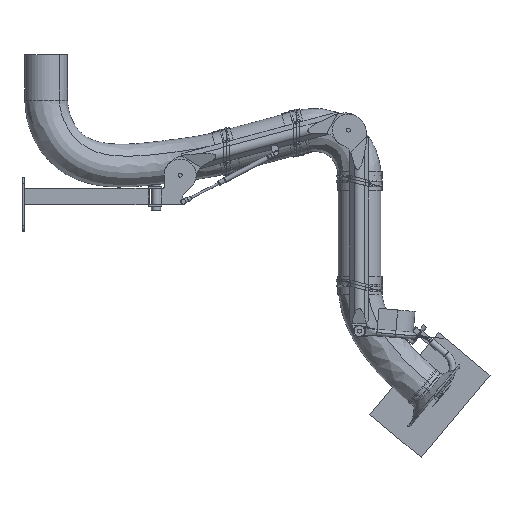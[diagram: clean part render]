
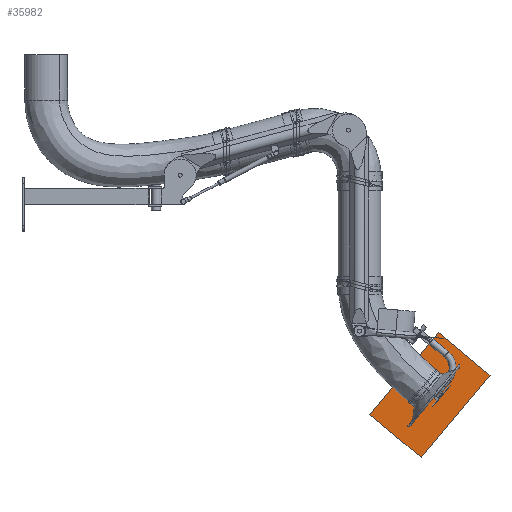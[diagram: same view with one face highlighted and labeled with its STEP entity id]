
A CAD part, top view. The second image highlights one B-rep face of the part: STEP entity #35982.
In plain terms, the highlighted planar face has unit normal (0, 0, -1).
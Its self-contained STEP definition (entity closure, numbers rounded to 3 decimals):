
#35931=DIRECTION('',(0.,1.,0.));
#35932=VECTOR('',#35931,250.);
#35933=CARTESIAN_POINT('',(200.,-250.,0.));
#35934=LINE('',#35933,#35932);
#35938=DIRECTION('',(-1.,0.,0.));
#35939=VECTOR('',#35938,400.);
#35940=CARTESIAN_POINT('',(200.,0.,0.));
#35941=LINE('',#35940,#35939);
#35945=DIRECTION('',(0.,-1.,0.));
#35946=VECTOR('',#35945,250.);
#35947=CARTESIAN_POINT('',(-200.,0.,0.));
#35948=LINE('',#35947,#35946);
#35952=DIRECTION('',(1.,0.,0.));
#35953=VECTOR('',#35952,400.);
#35954=CARTESIAN_POINT('',(-200.,-250.,0.));
#35955=LINE('',#35954,#35953);
#35959=CARTESIAN_POINT('',(200.,-250.,0.));
#35960=CARTESIAN_POINT('',(200.,0.,0.));
#35961=VERTEX_POINT('',#35959);
#35962=VERTEX_POINT('',#35960);
#35963=CARTESIAN_POINT('',(-200.,-250.,0.));
#35964=CARTESIAN_POINT('',(-200.,0.,0.));
#35965=VERTEX_POINT('',#35963);
#35966=VERTEX_POINT('',#35964);
#35967=CARTESIAN_POINT('',(200.,-250.,0.));
#35968=DIRECTION('',(0.,0.,-1.));
#35969=DIRECTION('',(0.,1.,0.));
#35970=AXIS2_PLACEMENT_3D('',#35967,#35968,#35969);
#35971=PLANE('',#35970);
#35973=ORIENTED_EDGE('',*,*,#35972,.T.);
#35975=ORIENTED_EDGE('',*,*,#35974,.T.);
#35977=ORIENTED_EDGE('',*,*,#35976,.T.);
#35979=ORIENTED_EDGE('',*,*,#35978,.T.);
#35980=EDGE_LOOP('',(#35973,#35975,#35977,#35979));
#35981=FACE_OUTER_BOUND('',#35980,.F.);
#35972=EDGE_CURVE('',#35961,#35962,#35934,.T.);
#35974=EDGE_CURVE('',#35962,#35966,#35941,.T.);
#35976=EDGE_CURVE('',#35966,#35965,#35948,.T.);
#35978=EDGE_CURVE('',#35965,#35961,#35955,.T.);
#35982=ADVANCED_FACE('',(#35981),#35971,.T.);
